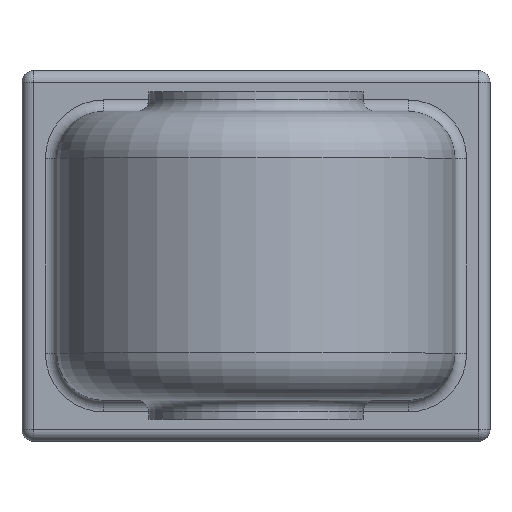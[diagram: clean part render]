
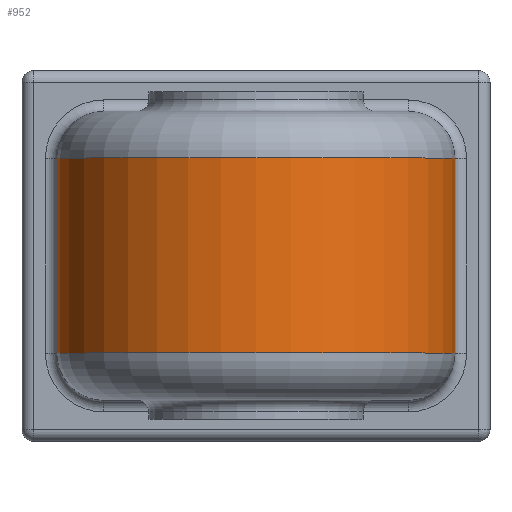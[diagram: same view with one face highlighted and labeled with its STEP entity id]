
A CAD part, top view. The second image highlights one B-rep face of the part: STEP entity #952.
In plain terms, the highlighted cylindrical face has radius 51 mm (diameter 102 mm), a partial arc.
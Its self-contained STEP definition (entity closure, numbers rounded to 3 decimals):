
#38=LINE('',#1566,#90);
#62=LINE('',#1650,#114);
#90=VECTOR('',#1258,50.);
#114=VECTOR('',#1358,50.);
#170=CYLINDRICAL_SURFACE('',#1091,51.);
#258=FACE_OUTER_BOUND('',#347,.T.);
#347=EDGE_LOOP('',(#851,#852,#853,#854));
#421=CIRCLE('',#1089,51.);
#422=CIRCLE('',#1092,51.);
#471=VERTEX_POINT('',#1563);
#472=VERTEX_POINT('',#1565);
#473=VERTEX_POINT('',#1571);
#494=VERTEX_POINT('',#1648);
#562=EDGE_CURVE('',#472,#471,#38,.T.);
#604=EDGE_CURVE('',#473,#494,#62,.T.);
#625=EDGE_CURVE('',#472,#494,#421,.T.);
#626=EDGE_CURVE('',#473,#471,#422,.T.);
#851=ORIENTED_EDGE('',*,*,#625,.F.);
#852=ORIENTED_EDGE('',*,*,#562,.T.);
#853=ORIENTED_EDGE('',*,*,#626,.F.);
#854=ORIENTED_EDGE('',*,*,#604,.T.);
#952=ADVANCED_FACE('',(#258),#170,.T.);
#1089=AXIS2_PLACEMENT_3D('',#1690,#1413,#1414);
#1091=AXIS2_PLACEMENT_3D('',#1692,#1417,#1418);
#1092=AXIS2_PLACEMENT_3D('',#1693,#1419,#1420);
#1258=DIRECTION('',(0.,-1.,0.));
#1358=DIRECTION('',(0.,1.,0.));
#1413=DIRECTION('center_axis',(0.,1.,0.));
#1414=DIRECTION('ref_axis',(0.,0.,1.));
#1417=DIRECTION('center_axis',(0.,1.,0.));
#1418=DIRECTION('ref_axis',(0.707,0.,0.707));
#1419=DIRECTION('center_axis',(0.,-1.,0.));
#1420=DIRECTION('ref_axis',(0.,0.,1.));
#1563=CARTESIAN_POINT('',(-51.,-25.,50.));
#1565=CARTESIAN_POINT('',(-51.,25.,50.));
#1566=CARTESIAN_POINT('',(-51.,18.5,50.));
#1571=CARTESIAN_POINT('',(51.,-25.,50.));
#1648=CARTESIAN_POINT('',(51.,25.,50.));
#1650=CARTESIAN_POINT('',(51.,-18.5,50.));
#1690=CARTESIAN_POINT('Origin',(0.,25.,50.));
#1692=CARTESIAN_POINT('Origin',(0.,-18.5,50.));
#1693=CARTESIAN_POINT('Origin',(0.,-25.,50.));
